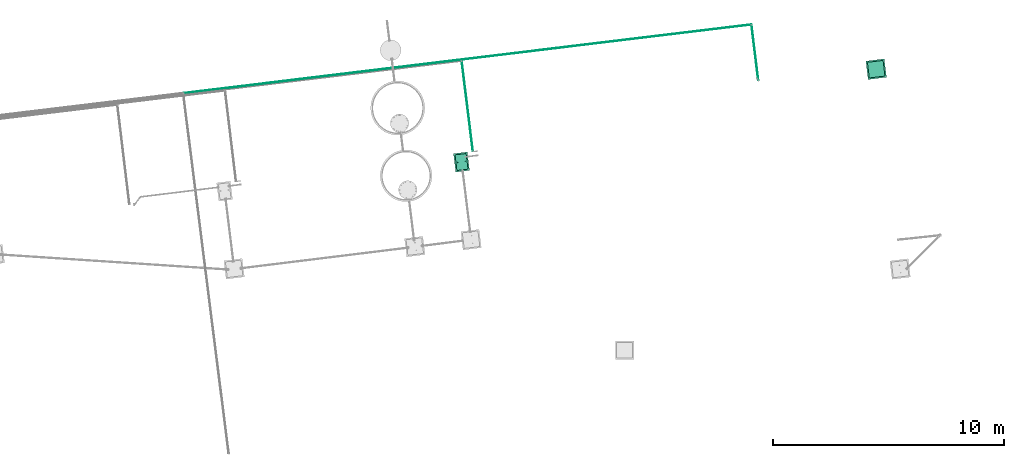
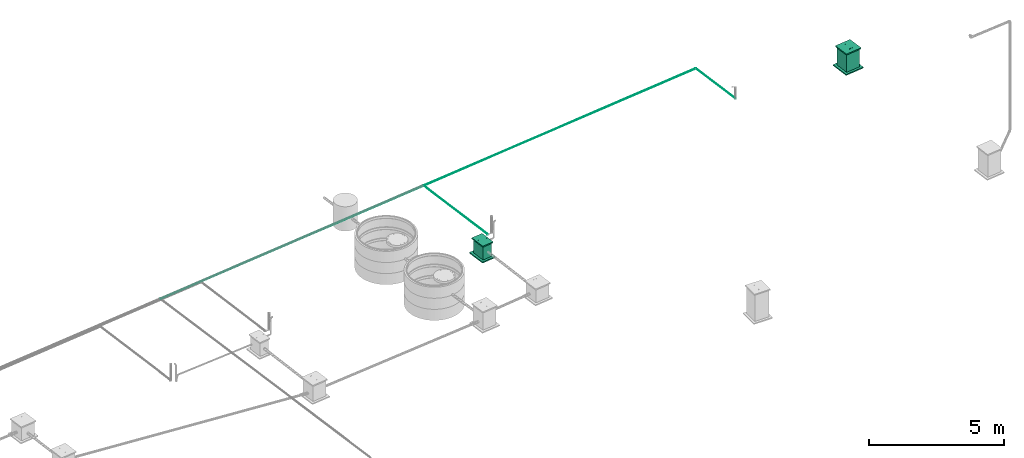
# One storey, part 9 of 97: 3 flow segments, 2 flow terminals.
"""IFC2X3 building model written with IfcOpenShell, lengths in centimetres."""

import ifcopenshell
import ifcopenshell.guid

model = None  # the IFC model being written
_history = None  # IfcOwnerHistory: only IFC2X3 demands one
_inside = {}  # id of a spatial element -> (the spatial element, [elements in it])
_under = {}  # id of a project, library or spatial element -> (it, [spatial elements below it])
_declared = {}  # id of a project -> (the project, [libraries it declares])
_typed = {}  # id of a type object -> (the type object, [elements of that type])
_made_of = {}  # id of a material, layer set ... -> (it, [elements and type objects made of it])


def new_model(schema):
    """Start an empty IFC model of exactly this schema.

    Asked for "IFC4X3", IfcOpenShell would pick the latest addendum, in which some entities
    have other attributes; the version numbers below select the first issue.
    IFC2X3 requires an IfcOwnerHistory on every rooted entity: one is made here for all.
    """
    global model, _history
    if schema == "IFC4X3":
        model = ifcopenshell.file(schema_version=(4, 3, 0, 0))
    else:
        model = ifcopenshell.file(schema=schema)
    _inside.clear()
    _under.clear()
    _declared.clear()
    _typed.clear()
    _made_of.clear()
    _history = None
    if model.schema == "IFC2X3":
        org = make("IfcOrganization", Name="unknown")
        user = make(
            "IfcPersonAndOrganization",
            ThePerson=make("IfcPerson", FamilyName="unknown"),
            TheOrganization=org,
        )
        app = make(
            "IfcApplication",
            ApplicationDeveloper=org,
            Version="unknown",
            ApplicationFullName="unknown",
            ApplicationIdentifier="unknown",
        )
        _history = make(
            "IfcOwnerHistory",
            OwningUser=user,
            OwningApplication=app,
            ChangeAction="ADDED",
            CreationDate=0,
        )
    return model


def make(cls, **values):
    """One entity of the class cls with the attributes given. An attribute that is None is left unset."""
    return model.create_entity(
        cls, **{name: value for name, value in values.items() if value is not None}
    )


def entity(cls, *values):
    """Any entity or typed value of the class cls, its attributes in the order of the schema. None: left unset."""
    e = model.create_entity(cls)
    for i, value in enumerate(values):
        if value is not None:
            e[i] = value
    return e


def rooted(cls, **values):
    """An entity with a GlobalId (a new one), such as an element, a storey or a relation."""
    return make(cls, GlobalId=ifcopenshell.guid.new(), OwnerHistory=_history, **values)


def si_unit(unit_type, name, prefix=None):
    """IfcSIUnit, for example si_unit("LENGTHUNIT", "METRE", prefix="MILLI")."""
    return make("IfcSIUnit", UnitType=unit_type, Prefix=prefix, Name=name)


def converted_unit(unit_type, name, factor, base, dimensions=None, offset=None):
    """IfcConversionBasedUnit, such as the inch: factor (a typed value) times the base unit."""
    return make(
        "IfcConversionBasedUnit"
        if offset is None
        else "IfcConversionBasedUnitWithOffset",
        ConversionOffset=offset,
        Dimensions=None
        if dimensions is None
        else entity("IfcDimensionalExponents", *dimensions),
        UnitType=unit_type,
        Name=name,
        ConversionFactor=make(
            "IfcMeasureWithUnit", ValueComponent=factor, UnitComponent=base
        ),
    )


def derived_unit(unit_type, elements):
    """IfcDerivedUnit: a product of units, each with its exponent."""
    return make(
        "IfcDerivedUnit",
        Elements=[
            make("IfcDerivedUnitElement", Unit=unit, Exponent=power)
            for unit, power in elements
        ],
        UnitType=unit_type,
    )


def assignment(units):
    """IfcUnitAssignment: the units of a project."""
    return None if units is None else make("IfcUnitAssignment", Units=units)


def point(xyz):
    """IfcCartesianPoint."""
    return None if xyz is None else make("IfcCartesianPoint", Coordinates=xyz)


def direction(xyz):
    """IfcDirection."""
    return None if xyz is None else make("IfcDirection", DirectionRatios=xyz)


def frame(location, z_axis=None, x_axis=None):
    """IfcAxis2Placement3D, a coordinate frame: its origin and axes. An axis left out is left unset."""
    return make(
        "IfcAxis2Placement3D",
        Location=point(location),
        Axis=direction(z_axis),
        RefDirection=direction(x_axis),
    )


def frame_2d(location, x_axis=None):
    """IfcAxis2Placement2D, a coordinate frame in the plane: its origin and x axis."""
    return make(
        "IfcAxis2Placement2D", Location=point(location), RefDirection=direction(x_axis)
    )


def origin():
    """The frame at (0, 0, 0) with its axes left unset."""
    return frame((0.0, 0.0, 0.0))


def origin_2d_with_axis():
    """The frame at (0, 0) in the plane with the x axis (1, 0) written out."""
    return frame_2d((0.0, 0.0), x_axis=(1.0, 0.0))


def place(relative_to, where):
    """IfcLocalPlacement: puts the frame where relative to a parent placement (None: the world)."""
    return make(
        "IfcLocalPlacement", PlacementRelTo=relative_to, RelativePlacement=where
    )


def context(
    kind, dimensions, precision=None, world=None, true_north=None, identifier=None
):
    """IfcGeometricRepresentationContext, for example the 3D "Model" context."""
    return make(
        "IfcGeometricRepresentationContext",
        ContextIdentifier=identifier,
        ContextType=kind,
        CoordinateSpaceDimension=dimensions,
        Precision=precision,
        WorldCoordinateSystem=world,
        TrueNorth=true_north,
    )


def subcontext(parent, identifier, kind, view, scale=None):
    """IfcGeometricRepresentationSubContext, for example "Body" below "Model"."""
    return make(
        "IfcGeometricRepresentationSubContext",
        ContextIdentifier=identifier,
        ContextType=kind,
        ParentContext=parent,
        TargetScale=scale,
        TargetView=view,
    )


def project(units=None, contexts=None):
    """IfcProject with its units and contexts."""
    return rooted(
        "IfcProject",
        Name="project",
        RepresentationContexts=contexts,
        UnitsInContext=assignment(units),
    )


def spatial(cls, under=None, at=None, **own):
    """A site, building, storey or space (cls), placed at a placement, below another one or the project."""
    s = rooted(cls, ObjectPlacement=at, **own)
    if under is not None:
        _under.setdefault(under.id(), (under, []))[1].append(s)
    return s


def profile(cls, at=None, kind="AREA", **sizes):
    """A parametric profile (cls). Its sizes go by their IFC names, for example OverallWidth=200.0."""
    return make(cls, ProfileType=kind, Position=at, **sizes)


def circle(**sizes):
    """IfcCircleProfileDef."""
    return profile("IfcCircleProfileDef", **sizes)


def extrude(swept, where, along, depth):
    """IfcExtrudedAreaSolid: the profile swept, set in the frame where, extruded along a direction by depth."""
    return make(
        "IfcExtrudedAreaSolid",
        SweptArea=swept,
        Position=where,
        ExtrudedDirection=direction(along),
        Depth=depth,
    )


def faces_of(points, faces, orient=None, outer=None):
    """IfcFace entities. A face is a list of loops; a loop is a list of indices into points, from 0.

    orient and outer hold one flag for each loop. By default every Orientation is true, the
    first loop of a face is its IfcFaceOuterBound and the others are IfcFaceBound.
    """
    made = []
    for i, loops in enumerate(faces):
        bounds = []
        for j, loop in enumerate(loops):
            is_outer = j == 0 if outer is None else outer[i][j]
            bounds.append(
                make(
                    "IfcFaceOuterBound" if is_outer else "IfcFaceBound",
                    Bound=make("IfcPolyLoop", Polygon=[points[k] for k in loop]),
                    Orientation=True if orient is None else orient[i][j],
                )
            )
        made.append(make("IfcFace", Bounds=bounds))
    return made


def faceted_brep(points, faces, orient=None, outer=None, voids=None):
    """IfcFacetedBrep: a solid bounded by flat faces; with voids (closed shells), ...WithVoids."""
    shared = [point(p) for p in points]
    hull = make("IfcClosedShell", CfsFaces=faces_of(shared, faces, orient, outer))
    if voids is None:
        return make("IfcFacetedBrep", Outer=hull)
    return make(
        "IfcFacetedBrepWithVoids",
        Outer=hull,
        Voids=[
            make(cls, CfsFaces=faces_of(shared, fs, o, b)) for cls, fs, o, b in voids
        ],
    )


def shape(context_of_items, identifier, shape_type, items):
    """IfcShapeRepresentation: the items that make up one representation, for example the "Body"."""
    return make(
        "IfcShapeRepresentation",
        ContextOfItems=context_of_items,
        RepresentationIdentifier=identifier,
        RepresentationType=shape_type,
        Items=items,
    )


def source(mapping_origin, context_of_items, identifier, shape_type, items):
    """IfcRepresentationMap: a shape defined once, which mapped items show again and again."""
    return make(
        "IfcRepresentationMap",
        MappingOrigin=mapping_origin,
        MappedRepresentation=shape(context_of_items, identifier, shape_type, items),
    )


def transform(
    local_origin,
    x_axis=None,
    y_axis=None,
    z_axis=None,
    scale=None,
    scale2=None,
    scale3=None,
    uniform=True,
):
    """IfcCartesianTransformationOperator3D, or its non-uniform kind. x_axis, y_axis, z_axis: its Axis1, 2, 3."""
    if uniform:
        return make(
            "IfcCartesianTransformationOperator3D",
            Axis1=direction(x_axis),
            Axis2=direction(y_axis),
            LocalOrigin=point(local_origin),
            Scale=scale,
            Axis3=direction(z_axis),
        )
    return make(
        "IfcCartesianTransformationOperator3DnonUniform",
        Axis1=direction(x_axis),
        Axis2=direction(y_axis),
        LocalOrigin=point(local_origin),
        Scale=scale,
        Axis3=direction(z_axis),
        Scale2=scale2,
        Scale3=scale3,
    )


def mapped(mapping_source, mapping_target):
    """IfcMappedItem: shows the shape of a source again, moved by a transform."""
    return make(
        "IfcMappedItem", MappingSource=mapping_source, MappingTarget=mapping_target
    )


def material(Name=None, Category=None):
    """IfcMaterial."""
    return make("IfcMaterial", Name=Name, Category=Category)


def material_list(materials):
    """IfcMaterialList."""
    return make("IfcMaterialList", Materials=materials)


def made_of(thing, what):
    """Note that an element or type object is made of a material, layer set ...; save() writes the relation."""
    if what is not None:
        _made_of.setdefault(what.id(), (what, []))[1].append(thing)
    return thing


def type_object(cls, material=None, **own):
    """A type object (cls), such as IfcWallType, which elements share."""
    return made_of(rooted(cls, **own), material)


def type_shapes(of_type, sources):
    """Give a type object the sources (RepresentationMaps) that its elements show as mapped items."""
    of_type.RepresentationMaps = sources


def element(
    cls,
    number,
    at=None,
    inside=None,
    cuts=None,
    type_object=None,
    material=None,
    context=None,
    identifier="Body",
    shape_type=None,
    held_by="IfcProductDefinitionShape",
    body=None,
    shapes=None,
    **own,
):
    """One element of the class cls, such as IfcWall. Its Tag is "e" and its number.

    at: its placement. inside: the storey or other place that contains it. cuts: it is an
    opening in that element (IfcRelVoidsElement). A single representation is given by context,
    identifier, shape_type and body (its items); several are given by shapes. held_by: the class
    of the entity that holds the representations. save() writes the other relations.
    """
    e = rooted(cls, Tag="e%d" % number, ObjectPlacement=at, **own)
    if body is not None:
        shapes = [shape(context, identifier, shape_type, body)]
    if shapes is not None:
        e.Representation = make(held_by, Representations=shapes)
    if inside is not None:
        _inside.setdefault(inside.id(), (inside, []))[1].append(e)
    if cuts is not None:
        rooted(
            "IfcRelVoidsElement", RelatingBuildingElement=cuts, RelatedOpeningElement=e
        )
    if type_object is not None:
        _typed.setdefault(type_object.id(), (type_object, []))[1].append(e)
    return made_of(e, material)


def aggregate(whole, parts):
    """IfcRelAggregates: a whole, such as a stair, and the parts it consists of."""
    return rooted("IfcRelAggregates", RelatingObject=whole, RelatedObjects=parts)


def save(model, path):
    """Write the relations noted so far, then the file.

    IfcRelAggregates (storeys below a building ...), IfcRelContainedInSpatialStructure (elements
    in a storey), IfcRelDefinesByType, IfcRelAssociatesMaterial and IfcRelDeclares: one each for
    every whole, place, type object, material and project.
    """
    for whole, parts in _under.values():
        aggregate(whole, parts)
    for where, things in _inside.values():
        rooted(
            "IfcRelContainedInSpatialStructure",
            RelatedElements=things,
            RelatingStructure=where,
        )
    for kind, things in _typed.values():
        rooted("IfcRelDefinesByType", RelatedObjects=things, RelatingType=kind)
    for what, things in _made_of.values():
        rooted("IfcRelAssociatesMaterial", RelatedObjects=things, RelatingMaterial=what)
    for by, libraries in _declared.values():
        rooted("IfcRelDeclares", RelatingContext=by, RelatedDefinitions=libraries)
    model.write(path)


model = new_model("IFC2X3")

# Units and contexts
model_context = context("Model", 3, precision=0.001, world=origin(), true_north=direction((6.12303176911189e-17, 1.0)))
body_context = subcontext(model_context, "Body", "Model", "MODEL_VIEW")
ifc_project = project(units=[si_unit("LENGTHUNIT", "METRE", prefix="CENTI"), si_unit("AREAUNIT", "SQUARE_METRE"), si_unit("VOLUMEUNIT", "CUBIC_METRE"), converted_unit("PLANEANGLEUNIT", "DEGREE", entity("IfcRatioMeasure", 0.0174532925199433), si_unit("PLANEANGLEUNIT", "RADIAN"), dimensions=[0, 0, 0, 0, 0, 0, 0]), si_unit("MASSUNIT", "GRAM", prefix="KILO"), derived_unit("MASSDENSITYUNIT", [(si_unit("MASSUNIT", "GRAM", prefix="KILO"), 1), (si_unit("LENGTHUNIT", "METRE"), -3)]), derived_unit("MOMENTOFINERTIAUNIT", [(si_unit("LENGTHUNIT", "METRE"), 4)]), si_unit("TIMEUNIT", "SECOND"), si_unit("FREQUENCYUNIT", "HERTZ"), si_unit("THERMODYNAMICTEMPERATUREUNIT", "DEGREE_CELSIUS"), derived_unit("THERMALTRANSMITTANCEUNIT", [(si_unit("MASSUNIT", "GRAM", prefix="KILO"), 1), (si_unit("THERMODYNAMICTEMPERATUREUNIT", "KELVIN"), -1), (si_unit("TIMEUNIT", "SECOND"), -3)]), derived_unit("VOLUMETRICFLOWRATEUNIT", [(si_unit("LENGTHUNIT", "METRE"), 3), (si_unit("TIMEUNIT", "SECOND"), -1)]), si_unit("ELECTRICCURRENTUNIT", "AMPERE"), si_unit("ELECTRICVOLTAGEUNIT", "VOLT"), si_unit("POWERUNIT", "WATT"), si_unit("FORCEUNIT", "NEWTON", prefix="KILO"), si_unit("ILLUMINANCEUNIT", "LUX"), si_unit("LUMINOUSFLUXUNIT", "LUMEN"), si_unit("LUMINOUSINTENSITYUNIT", "CANDELA"), derived_unit("USERDEFINED", [(si_unit("MASSUNIT", "GRAM", prefix="KILO"), -1), (si_unit("LENGTHUNIT", "METRE"), -2), (si_unit("TIMEUNIT", "SECOND"), 3), (si_unit("LUMINOUSFLUXUNIT", "LUMEN"), 1)]), derived_unit("LINEARVELOCITYUNIT", [(si_unit("LENGTHUNIT", "METRE"), 1), (si_unit("TIMEUNIT", "SECOND"), -1)]), si_unit("PRESSUREUNIT", "PASCAL"), derived_unit("USERDEFINED", [(si_unit("LENGTHUNIT", "METRE"), -2), (si_unit("MASSUNIT", "GRAM", prefix="KILO"), 1), (si_unit("TIMEUNIT", "SECOND"), -2)]), derived_unit("LINEARFORCEUNIT", [(si_unit("MASSUNIT", "GRAM", prefix="KILO"), 1), (si_unit("LENGTHUNIT", "METRE"), 1), (si_unit("TIMEUNIT", "SECOND"), -2), (si_unit("LENGTHUNIT", "METRE"), -1)]), derived_unit("PLANARFORCEUNIT", [(si_unit("MASSUNIT", "GRAM", prefix="KILO"), 1), (si_unit("LENGTHUNIT", "METRE"), 1), (si_unit("TIMEUNIT", "SECOND"), -2), (si_unit("LENGTHUNIT", "METRE"), -2)])], contexts=[model_context])

# Site, building, storey
site_placement = place(None, origin())
site = spatial("IfcSite", under=ifc_project, at=site_placement, Name="Default", CompositionType="ELEMENT")
building_placement = place(site_placement, origin())
building = spatial("IfcBuilding", under=site, at=building_placement, Name="HIDROSSANITÁRIO", CompositionType="ELEMENT")
storey_placement = place(building_placement, frame((0.0, 0.0, -260.0)))
storey = spatial("IfcBuildingStorey", under=building, at=storey_placement, Name="TÉRREO-HID", CompositionType="ELEMENT", Elevation=-260.0)

# Flow segments
pipe_segment_type = type_object("IfcPipeSegmentType", Name="Tipos de tubos:Tubo Marrom - Água Fria - Soldável", PredefinedType="NOTDEFINED")
flow_segment_1_placement = place(storey_placement, origin())
element("IfcFlowSegment", 1, at=flow_segment_1_placement, inside=storey, type_object=pipe_segment_type, Name="Tipos de tubos:Tubo Marrom - Água Fria - Soldável", ObjectType="Tipos de tubos:Tubo Marrom - Água Fria - Soldável", context=body_context, shape_type="SweptSolid", body=[
    extrude(circle(Radius=1.25, at=origin_2d_with_axis()), frame((750.180178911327, 3601.86194899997, -15.0), z_axis=(0.122160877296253, -0.99251031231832, 0.0), x_axis=(0.99251031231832, 0.122160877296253, 0.0)), (0.0, 0.0, 1.0), 392.291966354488),
])
flow_segment_2_placement = place(storey_placement, origin())
element("IfcFlowSegment", 2, at=flow_segment_2_placement, inside=storey, type_object=pipe_segment_type, Name="Tipos de tubos:Tubo Marrom - Água Fria - Soldável", ObjectType="Tipos de tubos:Tubo Marrom - Água Fria - Soldável", context=body_context, shape_type="SweptSolid", body=[
    extrude(circle(Radius=1.25, at=origin_2d_with_axis()), frame((2031.4858308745, 3519.03057384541, -20.0), z_axis=(-0.122160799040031, 0.992510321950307, 0.0), x_axis=(-0.992510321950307, -0.122160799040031, 0.0)), (0.0, 0.0, 1.0), 240.958343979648),
])
flow_segment_3_placement = place(storey_placement, origin())
element("IfcFlowSegment", 3, at=flow_segment_3_placement, inside=storey, type_object=pipe_segment_type, Name="Tipos de tubos:Tubo Marrom - Água Fria - Soldável", ObjectType="Tipos de tubos:Tubo Marrom - Água Fria - Soldável", context=body_context, shape_type="SweptSolid", body=[
    extrude(circle(Radius=1.25, at=origin_2d_with_axis()), frame((-451.615832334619, 3463.27192060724, -20.0), z_axis=(0.992773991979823, 0.119999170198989, 0.0), x_axis=(-0.119999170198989, 0.992773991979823, 0.0)), (0.0, 0.0, 1.0), 2469.66478430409),
])

# Flow terminals
ifc_material_1 = material(Name="<Unnamed>")
ifc_material_2 = material(Name="Concrete, Sand/Cement Screed")
ifc_material_3 = material(Name="Brick, Common, Grey")
ifc_material_list_1 = material_list([ifc_material_1, ifc_material_2, ifc_material_3])
ifc_material_list_2 = material_list([ifc_material_1, ifc_material_2, ifc_material_3])
distribution_element_type_1 = type_object("IfcDistributionElementType", Name="Caixa de Inspeção/Gordura:Alvenaria", material=ifc_material_list_2)
shared_shape_1 = source(origin(), body_context, "Body", "Brep", [
    faceted_brep([(-5.60146522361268, 16.5924553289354, 3.71042168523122), (-5.40613785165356, 16.3971279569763, 3.71042168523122), (-5.60146522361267, 16.2018005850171, 3.71042168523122), (-5.79679259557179, 16.3971279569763, 3.71042168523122), (6.39853477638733, 16.2018005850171, 3.71042168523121), (6.20320740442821, 16.3971279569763, 3.71042168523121), (6.39853477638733, 16.5924553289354, 3.71042168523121), (6.59386214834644, 16.3971279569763, 3.71042168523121), (-5.40613785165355, 16.3971279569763, 5.27042602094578), (-5.57070403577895, 16.2042380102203, 5.71042174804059), (-5.79679259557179, 16.3971279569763, 5.27042593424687), (-5.40613785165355, 16.3971279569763, 7.71042168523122), (-5.60146522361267, 16.2018005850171, 7.71042168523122), (-5.40613785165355, 16.3971279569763, 6.1504173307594), (-5.79679259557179, 16.3971279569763, 7.71042168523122), (-5.60146522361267, 16.5924553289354, 7.71042168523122), (-5.63222641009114, 16.5900179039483, 5.71042169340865), (-5.68947233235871, 16.5044482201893, 7.71042168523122), (-5.25102598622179, 16.2195619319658, 8.35998244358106), (-5.37993713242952, 16.2298951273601, 8.48889359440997), (-4.60146522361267, 16.3971279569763, 8.90574905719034), (-4.60146522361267, 16.2018005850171, 8.71042168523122), (-5.17045469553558, 16.3971279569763, 8.27941115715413), (-4.60146522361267, 16.3971279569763, 8.5150943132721), (-5.44668931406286, 16.3971279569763, 8.55564577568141), (-5.36898819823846, 16.5727768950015, 8.47794465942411), (-5.21737432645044, 16.5627205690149, 8.36172681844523), (-4.60146522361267, 16.5924553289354, 8.71042168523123), (0.518543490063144, 16.3971279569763, 8.90574905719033), (1.73854147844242, 16.2018005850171, 8.71042168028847), (2.95853913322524, 16.3971279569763, 8.90574905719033), (-0.76461087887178, 16.2018577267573, 8.71514602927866), (-2.16146960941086, 16.3971279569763, 8.5150943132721), (0.278526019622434, 16.3971279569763, 8.5150943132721), (0.398534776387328, 16.3971279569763, 8.5150943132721), (-2.16146958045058, 16.3971279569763, 8.90574905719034), (5.39853477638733, 16.2018005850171, 8.71042168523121), (5.39853477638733, 16.3971279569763, 8.90574905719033), (2.95853916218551, 16.3971279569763, 8.5150943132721), (5.39853477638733, 16.3971279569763, 8.51509431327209), (0.398534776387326, 16.3971279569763, 8.90574905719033), (1.56168082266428, 16.5923981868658, 8.70569732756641), (-0.941471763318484, 16.5924553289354, 8.71042168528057), (5.39853477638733, 16.5924553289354, 8.71042168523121), (5.39853477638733, 16.5044482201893, 8.79842879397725), (6.04809553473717, 16.2195619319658, 8.35998244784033), (6.17700668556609, 16.2298951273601, 8.48889359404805), (6.59386214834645, 16.3971279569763, 7.71042168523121), (6.39853477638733, 16.2018005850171, 7.71042168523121), (5.96752424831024, 16.3971279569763, 8.27941115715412), (6.20320740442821, 16.3971279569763, 7.71042168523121), (6.24375886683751, 16.3971279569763, 8.5556457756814), (6.16605775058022, 16.5727768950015, 8.477944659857), (6.04983990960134, 16.5627205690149, 8.32633078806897), (6.39853477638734, 16.5924553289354, 7.71042168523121), (6.20320740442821, 16.3971279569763, 6.15041734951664), (6.36777358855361, 16.2042380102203, 5.71042162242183), (6.59386214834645, 16.3971279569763, 6.15041743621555), (6.20320740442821, 16.3971279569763, 5.27042603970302), (6.4292959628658, 16.5900179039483, 5.71042167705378)], [[[0, 1, 2, 3]], [[4, 5, 6, 7]], [[8, 9, 2]], [[2, 10, 3]], [[10, 2, 9]], [[11, 12, 9]], [[8, 2, 1]], [[9, 8, 13, 11]], [[9, 12, 14]], [[14, 10, 9]], [[13, 15, 11]], [[0, 10, 16]], [[14, 16, 10]], [[10, 0, 3]], [[16, 13, 8, 1]], [[13, 16, 15]], [[1, 0, 16]], [[16, 14, 17, 15]], [[12, 18, 19]], [[20, 19, 21]], [[14, 12, 19]], [[11, 22, 18]], [[23, 21, 18]], [[14, 19, 24]], [[24, 19, 20]], [[23, 18, 22]], [[19, 18, 21]], [[11, 18, 12]], [[17, 14, 24]], [[25, 26, 15]], [[25, 15, 17]], [[11, 15, 26]], [[25, 27, 26]], [[20, 25, 24]], [[20, 27, 25]], [[26, 22, 11]], [[22, 26, 23]], [[17, 24, 25]], [[23, 26, 27]], [[28, 29, 30]], [[31, 32, 33, 34]], [[35, 20, 21]], [[36, 37, 30]], [[29, 28, 31]], [[38, 39, 36]], [[21, 23, 32]], [[34, 29, 31]], [[32, 31, 21]], [[30, 29, 36]], [[34, 38, 29]], [[36, 29, 38]], [[31, 28, 40, 35]], [[31, 35, 21]], [[40, 41, 42]], [[43, 39, 38]], [[27, 42, 33, 32, 23]], [[27, 20, 35, 40, 42]], [[30, 37, 44, 43]], [[38, 41, 43]], [[30, 43, 41]], [[42, 41, 33]], [[41, 40, 28, 30]], [[41, 38, 34, 33]], [[36, 45, 46]], [[47, 46, 48]], [[37, 36, 46]], [[39, 49, 45]], [[50, 48, 45]], [[37, 46, 51]], [[51, 46, 47]], [[50, 45, 49]], [[46, 45, 48]], [[39, 45, 36]], [[44, 37, 51]], [[52, 53, 43]], [[52, 43, 44]], [[39, 43, 53]], [[52, 54, 53]], [[47, 52, 51]], [[47, 54, 52]], [[53, 49, 39]], [[49, 53, 50]], [[44, 51, 52]], [[50, 53, 54]], [[55, 56, 48]], [[48, 57, 47]], [[57, 48, 56]], [[5, 4, 56]], [[55, 48, 50]], [[56, 55, 58, 5]], [[56, 4, 7]], [[7, 57, 56]], [[58, 6, 5]], [[54, 57, 59]], [[7, 59, 57]], [[57, 54, 47]], [[59, 58, 55, 50]], [[58, 59, 6]], [[50, 54, 59]], [[7, 6, 59]]]),
    faceted_brep([(-5.60146522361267, -16.5924553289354, 3.71042168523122), (-5.79679259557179, -16.3971279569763, 3.71042168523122), (-5.60146522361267, -16.2018005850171, 3.71042168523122), (-5.40613785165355, -16.3971279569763, 3.71042168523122), (6.39853477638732, -16.2018005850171, 3.71042168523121), (6.59386214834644, -16.3971279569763, 3.71042168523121), (6.39853477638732, -16.5924553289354, 3.71042168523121), (6.20320740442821, -16.3971279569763, 3.71042168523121), (-5.79679259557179, -16.3971279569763, 6.15041737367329), (-5.60146522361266, -16.5924553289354, 7.71042168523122), (-5.68947233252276, -16.5044482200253, 7.71042168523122), (-5.79679259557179, -16.3971279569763, 7.71042168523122), (-5.40613785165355, -16.3971279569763, 5.27042602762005), (-5.5707040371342, -16.5900179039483, 5.71042169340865), (-5.40613785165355, -16.3971279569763, 7.71042168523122), (-5.79679259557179, -16.3971279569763, 5.27042602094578), (-5.51345811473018, -16.5044482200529, 7.71042168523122), (-5.63222641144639, -16.2042380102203, 5.71042174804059), (-5.60146522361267, -16.2018005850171, 7.71042168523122), (-5.37028554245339, -16.5521831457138, 8.52319636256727), (-5.44668931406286, -16.3971279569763, 8.55564577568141), (-5.17045469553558, -16.3971279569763, 8.27941115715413), (-4.60146522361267, -16.3971279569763, 8.5150943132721), (-4.60146522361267, -16.5044482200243, 8.62241457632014), (-4.60146522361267, -16.5924553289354, 8.71042168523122), (-4.60146522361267, -16.5044482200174, 8.79842879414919), (-5.27261908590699, -16.5857215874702, 8.3815755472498), (-4.60146522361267, -16.3971279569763, 8.90574905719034), (-5.23720687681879, -16.2298951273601, 8.34616333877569), (-4.60146522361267, -16.2018005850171, 8.71042168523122), (-5.36611802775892, -16.2195619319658, 8.4750744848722), (0.398534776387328, -16.3971279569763, 8.5150943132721), (1.56168082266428, -16.5923981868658, 8.71514604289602), (-0.941471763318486, -16.5924553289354, 8.71042168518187), (2.95853912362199, -16.3971279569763, 8.90574905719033), (5.39853477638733, -16.5924553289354, 8.71042168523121), (5.39853477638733, -16.5044482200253, 8.7984287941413), (5.39853477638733, -16.3971279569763, 8.90574905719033), (0.278526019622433, -16.3971279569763, 8.90574905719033), (-2.16146957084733, -16.3971279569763, 8.90574905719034), (-2.16146960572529, -16.3971279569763, 8.5150943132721), (2.95853915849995, -16.3971279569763, 8.51509431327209), (5.39853477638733, -16.3971279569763, 8.51509431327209), (5.39853477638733, -16.5044482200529, 8.62241457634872), (0.518543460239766, -16.3971279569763, 8.5150943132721), (0.398534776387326, -16.3971279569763, 8.90574905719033), (1.73854147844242, -16.2018005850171, 8.71042169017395), (-0.76461087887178, -16.2018577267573, 8.70569734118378), (5.39853477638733, -16.2018005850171, 8.71042168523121), (6.21130945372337, -16.5521831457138, 8.47924200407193), (6.24375886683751, -16.3971279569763, 8.5556457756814), (5.96752424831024, -16.3971279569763, 8.27941115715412), (6.20320740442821, -16.3971279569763, 7.71042168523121), (6.31052766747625, -16.5044482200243, 7.71042168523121), (6.39853477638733, -16.5924553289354, 7.71042168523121), (6.4865418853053, -16.5044482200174, 7.71042168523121), (6.06968863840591, -16.5857215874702, 8.38157554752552), (6.59386214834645, -16.3971279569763, 7.71042168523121), (6.03427642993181, -16.2298951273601, 8.34616333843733), (6.39853477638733, -16.2018005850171, 7.71042168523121), (6.16318757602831, -16.2195619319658, 8.47507448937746), (6.59386214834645, -16.3971279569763, 5.27042599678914), (6.20320740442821, -16.3971279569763, 6.15041726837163), (6.36777358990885, -16.5900179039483, 5.71042167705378), (6.59386214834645, -16.3971279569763, 6.15041734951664), (6.42929596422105, -16.2042380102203, 5.71042162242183)], [[[0, 1, 2, 3]], [[4, 5, 6, 7]], [[8, 9, 10, 11]], [[0, 12, 13]], [[14, 13, 12]], [[12, 0, 3]], [[13, 8, 15, 1]], [[8, 13, 9]], [[1, 0, 13]], [[13, 14, 16, 9]], [[15, 17, 2]], [[2, 12, 3]], [[12, 2, 17]], [[11, 18, 17]], [[15, 2, 1]], [[17, 15, 8, 11]], [[17, 18, 14]], [[14, 12, 17]], [[19, 10, 9]], [[10, 19, 20]], [[21, 22, 23]], [[24, 25, 19]], [[24, 26, 23]], [[24, 19, 26]], [[16, 26, 9]], [[20, 25, 27]], [[20, 11, 10]], [[23, 26, 21]], [[19, 25, 20]], [[14, 21, 16]], [[26, 19, 9]], [[26, 16, 21]], [[22, 28, 29]], [[18, 30, 28]], [[14, 28, 21]], [[14, 18, 28]], [[11, 20, 30]], [[27, 30, 20]], [[27, 29, 30]], [[11, 30, 18]], [[21, 28, 22]], [[28, 30, 29]], [[31, 32, 33]], [[34, 35, 36, 37]], [[24, 33, 38, 39, 27, 25]], [[40, 31, 33, 24, 23, 22]], [[41, 42, 43, 35]], [[34, 32, 35]], [[41, 35, 32]], [[33, 32, 38]], [[32, 31, 44, 41]], [[32, 34, 45, 38]], [[44, 46, 41]], [[47, 39, 38, 45]], [[40, 22, 29]], [[48, 42, 41]], [[46, 44, 47]], [[34, 37, 48]], [[29, 27, 39]], [[45, 46, 47]], [[39, 47, 29]], [[41, 46, 48]], [[45, 34, 46]], [[48, 46, 34]], [[47, 44, 31, 40]], [[47, 40, 29]], [[49, 36, 35]], [[36, 49, 50]], [[51, 52, 53]], [[54, 55, 49]], [[54, 56, 53]], [[54, 49, 56]], [[43, 56, 35]], [[50, 55, 57]], [[50, 37, 36]], [[53, 56, 51]], [[49, 55, 50]], [[42, 51, 43]], [[56, 49, 35]], [[56, 43, 51]], [[52, 58, 59]], [[48, 60, 58]], [[42, 58, 51]], [[42, 48, 58]], [[37, 50, 60]], [[57, 60, 50]], [[57, 59, 60]], [[37, 60, 48]], [[51, 58, 52]], [[58, 60, 59]], [[61, 6, 5]], [[54, 62, 63]], [[7, 63, 62]], [[62, 54, 53, 52]], [[63, 61, 64, 57]], [[61, 63, 6]], [[63, 57, 55, 54]], [[7, 6, 63]], [[64, 65, 59]], [[59, 62, 52]], [[62, 59, 65]], [[5, 4, 65]], [[64, 59, 57]], [[65, 64, 61, 5]], [[65, 4, 7]], [[7, 62, 65]]]),
    faceted_brep([(34.0, 24.0, 6.0), (-34.0, 24.0, 6.0), (-34.0, -24.0, 6.0), (34.0, -24.0, 6.0), (34.0, 24.0, 1.0), (34.0, -24.0, 1.0), (-34.0, -24.0, 1.0), (-34.0, 24.0, 1.0)], [[[0, 1, 2, 3]], [[4, 5, 6, 7]], [[1, 0, 4, 7]], [[2, 1, 7, 6]], [[3, 2, 6, 5]], [[0, 3, 5, 4]]]),
    faceted_brep([(40.0, 30.0, -60.0), (-40.0, 30.0, -60.0), (-40.0, -30.0, -60.0), (40.0, -30.0, -60.0), (40.0, 30.0, -65.0), (40.0, -30.0, -65.0), (-40.0, -30.0, -65.0), (-40.0, 30.0, -65.0)], [[[0, 1, 2, 3]], [[4, 5, 6, 7]], [[1, 0, 4, 7]], [[2, 1, 7, 6]], [[3, 2, 6, 5]], [[0, 3, 5, 4]]]),
    faceted_brep([(25.0, 15.0, 1.0), (25.0, -15.0, 1.0), (-25.0, -15.0, 1.0), (-25.0, 15.0, 1.0), (30.0, 20.0, 1.0), (-30.0, 20.0, 1.0), (-30.0, -20.0, 1.0), (30.0, -20.0, 1.0), (25.0, 15.0, -60.0), (-25.0, 15.0, -60.0), (-25.0, -15.0, -60.0), (25.0, -15.0, -60.0), (30.0, 20.0, -60.0), (30.0, -20.0, -60.0), (-30.0, -20.0, -60.0), (-30.0, 20.0, -60.0)], [[[0, 1, 2, 3], [4, 5, 6, 7]], [[8, 9, 10, 11], [12, 13, 14, 15]], [[1, 0, 8, 11]], [[2, 1, 11, 10]], [[3, 2, 10, 9]], [[0, 3, 9, 8]], [[5, 4, 12, 15]], [[6, 5, 15, 14]], [[7, 6, 14, 13]], [[4, 7, 13, 12]]], outer=[[False, True], [False, True], [True], [True], [True], [True], [True], [True], [True], [True]]),
])
type_shapes(distribution_element_type_1, [shared_shape_1])
flow_terminal_1_placement = place(storey_placement, frame((748.832967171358, 3165.96929972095, 0.0), z_axis=(0.0, 0.0, 1.0), x_axis=(-0.122152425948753, 0.992511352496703, 0.0)))
element("IfcFlowTerminal", 4, at=flow_terminal_1_placement, inside=storey, type_object=distribution_element_type_1, material=ifc_material_list_1, Name="Caixa de Inspeção/Gordura:Alvenaria", ObjectType="Caixa de Inspeção/Gordura:Alvenaria", context=body_context, shape_type="MappedRepresentation", body=[
    mapped(shared_shape_1, transform((0.0, 0.0, 0.0), scale=1.0)),
])
ifc_material_list_3 = material_list([ifc_material_1, ifc_material_2, ifc_material_3])
ifc_material_list_4 = material_list([ifc_material_1, ifc_material_2, ifc_material_3])
distribution_element_type_2 = type_object("IfcDistributionElementType", Name="Caixa de Inspeção/Gordura:Alvenaria", material=ifc_material_list_4)
shared_shape_2 = source(origin(), body_context, "Body", "Brep", [
    faceted_brep([(-5.60146522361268, 16.5924553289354, 3.71042168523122), (-5.40613785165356, 16.3971279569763, 3.71042168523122), (-5.60146522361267, 16.2018005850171, 3.71042168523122), (-5.79679259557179, 16.3971279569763, 3.71042168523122), (6.39853477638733, 16.2018005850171, 3.71042168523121), (6.20320740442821, 16.3971279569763, 3.71042168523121), (6.39853477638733, 16.5924553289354, 3.71042168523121), (6.59386214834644, 16.3971279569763, 3.71042168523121), (-5.40613785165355, 16.3971279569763, 5.27042602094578), (-5.57070403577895, 16.2042380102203, 5.71042174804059), (-5.79679259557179, 16.3971279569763, 5.27042593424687), (-5.40613785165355, 16.3971279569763, 7.71042168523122), (-5.60146522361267, 16.2018005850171, 7.71042168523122), (-5.40613785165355, 16.3971279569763, 6.1504173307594), (-5.79679259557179, 16.3971279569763, 7.71042168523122), (-5.60146522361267, 16.5924553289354, 7.71042168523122), (-5.63222641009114, 16.5900179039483, 5.71042169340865), (-5.68947233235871, 16.5044482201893, 7.71042168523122), (-5.25102598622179, 16.2195619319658, 8.35998244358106), (-5.37993713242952, 16.2298951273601, 8.48889359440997), (-4.60146522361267, 16.3971279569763, 8.90574905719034), (-4.60146522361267, 16.2018005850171, 8.71042168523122), (-5.17045469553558, 16.3971279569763, 8.27941115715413), (-4.60146522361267, 16.3971279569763, 8.5150943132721), (-5.44668931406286, 16.3971279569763, 8.55564577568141), (-5.36898819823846, 16.5727768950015, 8.47794465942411), (-5.21737432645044, 16.5627205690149, 8.36172681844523), (-4.60146522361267, 16.5924553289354, 8.71042168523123), (0.518543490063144, 16.3971279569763, 8.90574905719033), (1.73854147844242, 16.2018005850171, 8.71042168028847), (2.95853913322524, 16.3971279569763, 8.90574905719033), (-0.76461087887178, 16.2018577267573, 8.71514602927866), (-2.16146960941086, 16.3971279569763, 8.5150943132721), (0.278526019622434, 16.3971279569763, 8.5150943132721), (0.398534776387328, 16.3971279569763, 8.5150943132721), (-2.16146958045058, 16.3971279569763, 8.90574905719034), (5.39853477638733, 16.2018005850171, 8.71042168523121), (5.39853477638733, 16.3971279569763, 8.90574905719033), (2.95853916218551, 16.3971279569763, 8.5150943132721), (5.39853477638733, 16.3971279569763, 8.51509431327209), (0.398534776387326, 16.3971279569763, 8.90574905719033), (1.56168082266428, 16.5923981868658, 8.70569732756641), (-0.941471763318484, 16.5924553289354, 8.71042168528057), (5.39853477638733, 16.5924553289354, 8.71042168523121), (5.39853477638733, 16.5044482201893, 8.79842879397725), (6.04809553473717, 16.2195619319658, 8.35998244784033), (6.17700668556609, 16.2298951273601, 8.48889359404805), (6.59386214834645, 16.3971279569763, 7.71042168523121), (6.39853477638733, 16.2018005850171, 7.71042168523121), (5.96752424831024, 16.3971279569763, 8.27941115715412), (6.20320740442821, 16.3971279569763, 7.71042168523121), (6.24375886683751, 16.3971279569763, 8.5556457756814), (6.16605775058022, 16.5727768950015, 8.477944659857), (6.04983990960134, 16.5627205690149, 8.32633078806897), (6.39853477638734, 16.5924553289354, 7.71042168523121), (6.20320740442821, 16.3971279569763, 6.15041734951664), (6.36777358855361, 16.2042380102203, 5.71042162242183), (6.59386214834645, 16.3971279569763, 6.15041743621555), (6.20320740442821, 16.3971279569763, 5.27042603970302), (6.4292959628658, 16.5900179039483, 5.71042167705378)], [[[0, 1, 2, 3]], [[4, 5, 6, 7]], [[8, 9, 2]], [[2, 10, 3]], [[10, 2, 9]], [[11, 12, 9]], [[8, 2, 1]], [[9, 8, 13, 11]], [[9, 12, 14]], [[14, 10, 9]], [[13, 15, 11]], [[0, 10, 16]], [[14, 16, 10]], [[10, 0, 3]], [[16, 13, 8, 1]], [[13, 16, 15]], [[1, 0, 16]], [[16, 14, 17, 15]], [[12, 18, 19]], [[20, 19, 21]], [[14, 12, 19]], [[11, 22, 18]], [[23, 21, 18]], [[14, 19, 24]], [[24, 19, 20]], [[23, 18, 22]], [[19, 18, 21]], [[11, 18, 12]], [[17, 14, 24]], [[25, 26, 15]], [[25, 15, 17]], [[11, 15, 26]], [[25, 27, 26]], [[20, 25, 24]], [[20, 27, 25]], [[26, 22, 11]], [[22, 26, 23]], [[17, 24, 25]], [[23, 26, 27]], [[28, 29, 30]], [[31, 32, 33, 34]], [[35, 20, 21]], [[36, 37, 30]], [[29, 28, 31]], [[38, 39, 36]], [[21, 23, 32]], [[34, 29, 31]], [[32, 31, 21]], [[30, 29, 36]], [[34, 38, 29]], [[36, 29, 38]], [[31, 28, 40, 35]], [[31, 35, 21]], [[40, 41, 42]], [[43, 39, 38]], [[27, 42, 33, 32, 23]], [[27, 20, 35, 40, 42]], [[30, 37, 44, 43]], [[38, 41, 43]], [[30, 43, 41]], [[42, 41, 33]], [[41, 40, 28, 30]], [[41, 38, 34, 33]], [[36, 45, 46]], [[47, 46, 48]], [[37, 36, 46]], [[39, 49, 45]], [[50, 48, 45]], [[37, 46, 51]], [[51, 46, 47]], [[50, 45, 49]], [[46, 45, 48]], [[39, 45, 36]], [[44, 37, 51]], [[52, 53, 43]], [[52, 43, 44]], [[39, 43, 53]], [[52, 54, 53]], [[47, 52, 51]], [[47, 54, 52]], [[53, 49, 39]], [[49, 53, 50]], [[44, 51, 52]], [[50, 53, 54]], [[55, 56, 48]], [[48, 57, 47]], [[57, 48, 56]], [[5, 4, 56]], [[55, 48, 50]], [[56, 55, 58, 5]], [[56, 4, 7]], [[7, 57, 56]], [[58, 6, 5]], [[54, 57, 59]], [[7, 59, 57]], [[57, 54, 47]], [[59, 58, 55, 50]], [[58, 59, 6]], [[50, 54, 59]], [[7, 6, 59]]]),
    faceted_brep([(-5.60146522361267, -16.5924553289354, 3.71042168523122), (-5.79679259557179, -16.3971279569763, 3.71042168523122), (-5.60146522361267, -16.2018005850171, 3.71042168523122), (-5.40613785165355, -16.3971279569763, 3.71042168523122), (6.39853477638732, -16.2018005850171, 3.71042168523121), (6.59386214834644, -16.3971279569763, 3.71042168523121), (6.39853477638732, -16.5924553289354, 3.71042168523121), (6.20320740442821, -16.3971279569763, 3.71042168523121), (-5.79679259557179, -16.3971279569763, 6.15041737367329), (-5.60146522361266, -16.5924553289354, 7.71042168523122), (-5.68947233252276, -16.5044482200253, 7.71042168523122), (-5.79679259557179, -16.3971279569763, 7.71042168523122), (-5.40613785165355, -16.3971279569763, 5.27042602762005), (-5.5707040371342, -16.5900179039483, 5.71042169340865), (-5.40613785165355, -16.3971279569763, 7.71042168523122), (-5.79679259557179, -16.3971279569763, 5.27042602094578), (-5.51345811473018, -16.5044482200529, 7.71042168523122), (-5.63222641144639, -16.2042380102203, 5.71042174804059), (-5.60146522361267, -16.2018005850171, 7.71042168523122), (-5.37028554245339, -16.5521831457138, 8.52319636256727), (-5.44668931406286, -16.3971279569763, 8.55564577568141), (-5.17045469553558, -16.3971279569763, 8.27941115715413), (-4.60146522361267, -16.3971279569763, 8.5150943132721), (-4.60146522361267, -16.5044482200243, 8.62241457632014), (-4.60146522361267, -16.5924553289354, 8.71042168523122), (-4.60146522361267, -16.5044482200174, 8.79842879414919), (-5.27261908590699, -16.5857215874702, 8.3815755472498), (-4.60146522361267, -16.3971279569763, 8.90574905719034), (-5.23720687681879, -16.2298951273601, 8.34616333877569), (-4.60146522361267, -16.2018005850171, 8.71042168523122), (-5.36611802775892, -16.2195619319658, 8.4750744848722), (0.398534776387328, -16.3971279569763, 8.5150943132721), (1.56168082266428, -16.5923981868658, 8.71514604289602), (-0.941471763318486, -16.5924553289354, 8.71042168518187), (2.95853912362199, -16.3971279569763, 8.90574905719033), (5.39853477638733, -16.5924553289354, 8.71042168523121), (5.39853477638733, -16.5044482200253, 8.7984287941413), (5.39853477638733, -16.3971279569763, 8.90574905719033), (0.278526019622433, -16.3971279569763, 8.90574905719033), (-2.16146957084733, -16.3971279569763, 8.90574905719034), (-2.16146960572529, -16.3971279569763, 8.5150943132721), (2.95853915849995, -16.3971279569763, 8.51509431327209), (5.39853477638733, -16.3971279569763, 8.51509431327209), (5.39853477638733, -16.5044482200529, 8.62241457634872), (0.518543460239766, -16.3971279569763, 8.5150943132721), (0.398534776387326, -16.3971279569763, 8.90574905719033), (1.73854147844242, -16.2018005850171, 8.71042169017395), (-0.76461087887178, -16.2018577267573, 8.70569734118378), (5.39853477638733, -16.2018005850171, 8.71042168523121), (6.21130945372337, -16.5521831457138, 8.47924200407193), (6.24375886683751, -16.3971279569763, 8.5556457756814), (5.96752424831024, -16.3971279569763, 8.27941115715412), (6.20320740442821, -16.3971279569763, 7.71042168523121), (6.31052766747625, -16.5044482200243, 7.71042168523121), (6.39853477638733, -16.5924553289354, 7.71042168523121), (6.4865418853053, -16.5044482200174, 7.71042168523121), (6.06968863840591, -16.5857215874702, 8.38157554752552), (6.59386214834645, -16.3971279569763, 7.71042168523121), (6.03427642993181, -16.2298951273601, 8.34616333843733), (6.39853477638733, -16.2018005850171, 7.71042168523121), (6.16318757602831, -16.2195619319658, 8.47507448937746), (6.59386214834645, -16.3971279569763, 5.27042599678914), (6.20320740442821, -16.3971279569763, 6.15041726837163), (6.36777358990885, -16.5900179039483, 5.71042167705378), (6.59386214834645, -16.3971279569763, 6.15041734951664), (6.42929596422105, -16.2042380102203, 5.71042162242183)], [[[0, 1, 2, 3]], [[4, 5, 6, 7]], [[8, 9, 10, 11]], [[0, 12, 13]], [[14, 13, 12]], [[12, 0, 3]], [[13, 8, 15, 1]], [[8, 13, 9]], [[1, 0, 13]], [[13, 14, 16, 9]], [[15, 17, 2]], [[2, 12, 3]], [[12, 2, 17]], [[11, 18, 17]], [[15, 2, 1]], [[17, 15, 8, 11]], [[17, 18, 14]], [[14, 12, 17]], [[19, 10, 9]], [[10, 19, 20]], [[21, 22, 23]], [[24, 25, 19]], [[24, 26, 23]], [[24, 19, 26]], [[16, 26, 9]], [[20, 25, 27]], [[20, 11, 10]], [[23, 26, 21]], [[19, 25, 20]], [[14, 21, 16]], [[26, 19, 9]], [[26, 16, 21]], [[22, 28, 29]], [[18, 30, 28]], [[14, 28, 21]], [[14, 18, 28]], [[11, 20, 30]], [[27, 30, 20]], [[27, 29, 30]], [[11, 30, 18]], [[21, 28, 22]], [[28, 30, 29]], [[31, 32, 33]], [[34, 35, 36, 37]], [[24, 33, 38, 39, 27, 25]], [[40, 31, 33, 24, 23, 22]], [[41, 42, 43, 35]], [[34, 32, 35]], [[41, 35, 32]], [[33, 32, 38]], [[32, 31, 44, 41]], [[32, 34, 45, 38]], [[44, 46, 41]], [[47, 39, 38, 45]], [[40, 22, 29]], [[48, 42, 41]], [[46, 44, 47]], [[34, 37, 48]], [[29, 27, 39]], [[45, 46, 47]], [[39, 47, 29]], [[41, 46, 48]], [[45, 34, 46]], [[48, 46, 34]], [[47, 44, 31, 40]], [[47, 40, 29]], [[49, 36, 35]], [[36, 49, 50]], [[51, 52, 53]], [[54, 55, 49]], [[54, 56, 53]], [[54, 49, 56]], [[43, 56, 35]], [[50, 55, 57]], [[50, 37, 36]], [[53, 56, 51]], [[49, 55, 50]], [[42, 51, 43]], [[56, 49, 35]], [[56, 43, 51]], [[52, 58, 59]], [[48, 60, 58]], [[42, 58, 51]], [[42, 48, 58]], [[37, 50, 60]], [[57, 60, 50]], [[57, 59, 60]], [[37, 60, 48]], [[51, 58, 52]], [[58, 60, 59]], [[61, 6, 5]], [[54, 62, 63]], [[7, 63, 62]], [[62, 54, 53, 52]], [[63, 61, 64, 57]], [[61, 63, 6]], [[63, 57, 55, 54]], [[7, 6, 63]], [[64, 65, 59]], [[59, 62, 52]], [[62, 59, 65]], [[5, 4, 65]], [[64, 59, 57]], [[65, 64, 61, 5]], [[65, 4, 7]], [[7, 62, 65]]]),
    faceted_brep([(34.0, 34.0, 6.0), (-34.0, 34.0, 6.0), (-34.0, -34.0, 6.0), (34.0, -34.0, 6.0), (34.0, 34.0, 1.0), (34.0, -34.0, 1.0), (-34.0, -34.0, 1.0), (-34.0, 34.0, 1.0)], [[[0, 1, 2, 3]], [[4, 5, 6, 7]], [[1, 0, 4, 7]], [[2, 1, 7, 6]], [[3, 2, 6, 5]], [[0, 3, 5, 4]]]),
    faceted_brep([(40.0, 40.0, -80.0), (-40.0, 40.0, -80.0), (-40.0, -40.0, -80.0), (40.0, -40.0, -80.0), (40.0, 40.0, -85.0), (40.0, -40.0, -85.0), (-40.0, -40.0, -85.0), (-40.0, 40.0, -85.0)], [[[0, 1, 2, 3]], [[4, 5, 6, 7]], [[1, 0, 4, 7]], [[2, 1, 7, 6]], [[3, 2, 6, 5]], [[0, 3, 5, 4]]]),
    faceted_brep([(25.0, 25.0, 1.0), (25.0, -25.0, 1.0), (-25.0, -25.0, 1.0), (-25.0, 25.0, 1.0), (30.0, 30.0, 1.0), (-30.0, 30.0, 1.0), (-30.0, -30.0, 1.0), (30.0, -30.0, 1.0), (25.0, 25.0, -80.0), (-25.0, 25.0, -80.0), (-25.0, -25.0, -80.0), (25.0, -25.0, -80.0), (30.0, 30.0, -80.0), (30.0, -30.0, -80.0), (-30.0, -30.0, -80.0), (-30.0, 30.0, -80.0)], [[[0, 1, 2, 3], [4, 5, 6, 7]], [[8, 9, 10, 11], [12, 13, 14, 15]], [[1, 0, 8, 11]], [[2, 1, 11, 10]], [[3, 2, 10, 9]], [[0, 3, 9, 8]], [[5, 4, 12, 15]], [[6, 5, 15, 14]], [[7, 6, 14, 13]], [[4, 7, 13, 12]]], outer=[[False, True], [False, True], [True], [True], [True], [True], [True], [True], [True], [True]]),
])
type_shapes(distribution_element_type_2, [shared_shape_2])
flow_terminal_2_placement = place(storey_placement, frame((2540.5429360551, 3567.05523799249, 0.0), z_axis=(0.0, 0.0, 1.0), x_axis=(0.992511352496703, 0.122152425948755, 0.0)))
element("IfcFlowTerminal", 5, at=flow_terminal_2_placement, inside=storey, type_object=distribution_element_type_2, material=ifc_material_list_3, Name="Caixa de Inspeção/Gordura:Alvenaria", ObjectType="Caixa de Inspeção/Gordura:Alvenaria", context=body_context, shape_type="MappedRepresentation", body=[
    mapped(shared_shape_2, transform((0.0, 0.0, 0.0), scale=1.0)),
])

save(model, "model.ifc")
